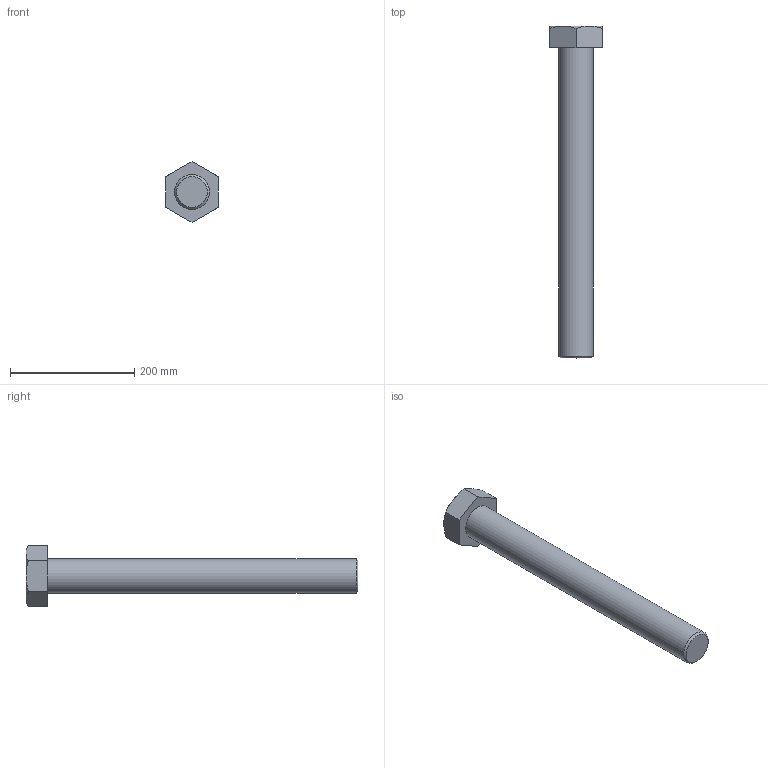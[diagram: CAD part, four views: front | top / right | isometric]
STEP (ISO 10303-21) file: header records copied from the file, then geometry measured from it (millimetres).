
FILE_DESCRIPTION(/* description */ (''),/* implementation_level */ '2;1');
FILE_NAME(/* name */ 'C:\Users\unitec\Documents\Inventor\各種小物\JIS\JIS B 1180 六角ボルト 等級C\hbc56\M56x500.stp',/* time_stamp */ '2015-02-13T15:00:14+09:00',/* author */ ('unitec'),/* organization */ (''),/* preprocessor_version */ 'ST-DEVELOPER v15.2',/* originating_system */ 'Autodesk Inventor 2014',/* authorisation */ '');
FILE_SCHEMA (('AUTOMOTIVE_DESIGN { 1 0 10303 214 3 1 1 }'));
Length unit declared in the file: millimetre
Products named in the file (1): M56x500
Bounding box: 85 x 535 x 98.15 mm (x, y, z)
Volume: 1449035.1 mm3; surface area: 110162.4 mm2
Topology: 1 solids, 1 shells, 17 faces, 35 edges, 21 vertices
Faces by surface type: plane 9, cone 7, cylinder 1
Full cylindrical faces by diameter (mm): 56 x1
Entity records: 441 total; most frequent: CARTESIAN_POINT 96, ORIENTED_EDGE 66, DIRECTION 66, EDGE_CURVE 33, AXIS2_PLACEMENT_3D 27, VERTEX_POINT 21, EDGE_LOOP 20, ADVANCED_FACE 17
